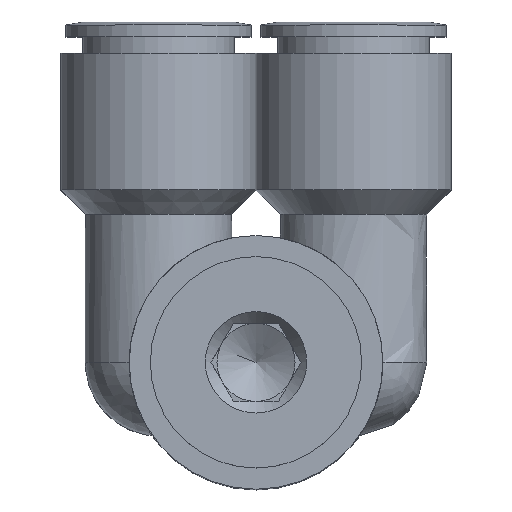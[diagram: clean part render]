
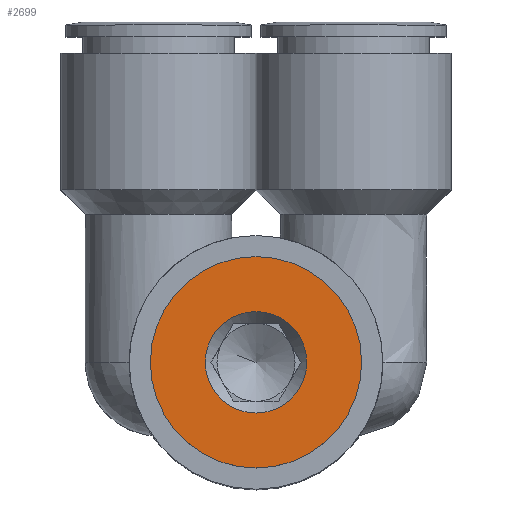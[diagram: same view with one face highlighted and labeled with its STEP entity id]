
A CAD part, top view. The second image highlights one B-rep face of the part: STEP entity #2699.
In plain terms, the highlighted planar face has unit normal (0, 0, 1).
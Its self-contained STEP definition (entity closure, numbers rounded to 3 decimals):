
#614=CARTESIAN_POINT('',(5.2,0.0,39.0));
#615=VERTEX_POINT('',#614);
#616=CARTESIAN_POINT('',(0.0,0.0,39.0));
#617=DIRECTION('',(0.0,0.0,-1.0));
#618=DIRECTION('',(1.0,0.0,0.0));
#619=AXIS2_PLACEMENT_3D('',#616,#617,#618);
#620=CIRCLE('',#619,5.2);
#621=EDGE_CURVE('',#615,#615,#620,.T.);
#2673=CARTESIAN_POINT('',(0.0,-10.833,39.0));
#2674=VERTEX_POINT('',#2673);
#2675=CARTESIAN_POINT('',(0.0,0.0,39.0));
#2676=DIRECTION('',(0.0,0.0,1.0));
#2677=DIRECTION('',(0.0,-1.0,0.0));
#2678=AXIS2_PLACEMENT_3D('',#2675,#2676,#2677);
#2679=CIRCLE('',#2678,10.833);
#2680=EDGE_CURVE('',#2674,#2674,#2679,.T.);
#2688=CARTESIAN_POINT('',(0.0,-5.417,39.0));
#2689=DIRECTION('',(0.0,0.0,1.0));
#2690=DIRECTION('',(1.0,0.0,0.0));
#2691=AXIS2_PLACEMENT_3D('',#2688,#2689,#2690);
#2692=PLANE('',#2691);
#2693=ORIENTED_EDGE('',*,*,#2680,.T.);
#2694=EDGE_LOOP('',(#2693));
#2695=FACE_OUTER_BOUND('',#2694,.T.);
#2696=ORIENTED_EDGE('',*,*,#621,.T.);
#2697=EDGE_LOOP('',(#2696));
#2698=FACE_BOUND('',#2697,.T.);
#2699=ADVANCED_FACE('',(#2695,#2698),#2692,.T.);
